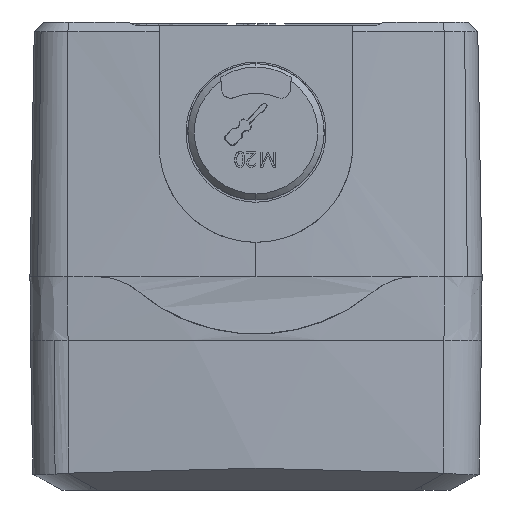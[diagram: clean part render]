
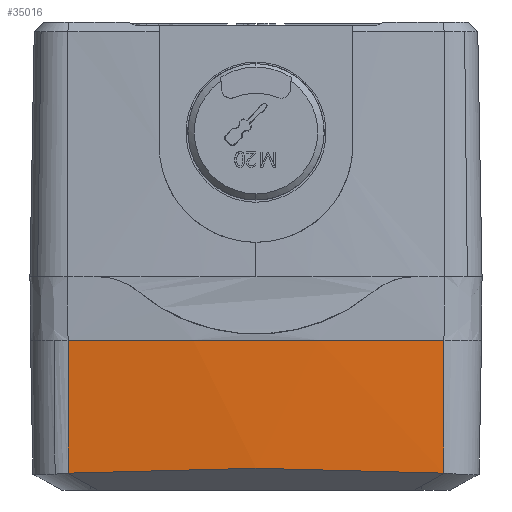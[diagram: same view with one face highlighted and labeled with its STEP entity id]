
A CAD part, left-side view. The second image highlights one B-rep face of the part: STEP entity #35016.
In plain terms, the highlighted conical face has half-angle 1 degrees and reference radius 316.019 mm.
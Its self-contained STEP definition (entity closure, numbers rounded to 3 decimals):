
#2704 = LINE ( 'NONE', #29182, #11752 ) ;
#3037 = AXIS2_PLACEMENT_3D ( 'NONE', #15292, #34302, #11772 ) ;
#4186 = LINE ( 'NONE', #23657, #42592 ) ;
#6215 = VERTEX_POINT ( 'NONE', #12149 ) ;
#7505 = EDGE_CURVE ( 'NONE', #15810, #31791, #2704, .T. ) ;
#8085 = CONICAL_SURFACE ( 'NONE', #13686, 316.019, 0.017 ) ;
#10189 = EDGE_LOOP ( 'NONE', ( #26028, #31628, #38767, #47302 ) ) ;
#10687 =( BOUNDED_CURVE ( )  B_SPLINE_CURVE ( 3, ( #48777, #45277, #41552, #11299 ),
 .UNSPECIFIED., .F., .T. ) 
 B_SPLINE_CURVE_WITH_KNOTS ( ( 4, 4 ),
 ( 6.189, 6.378 ),
 .UNSPECIFIED. ) 
 CURVE ( )  GEOMETRIC_REPRESENTATION_ITEM ( )  RATIONAL_B_SPLINE_CURVE ( ( 1., 0.997, 0.997, 1. ) ) 
 REPRESENTATION_ITEM ( '' )  );
#11299 = CARTESIAN_POINT ( 'NONE',  ( -141.262, 741.015, -18.854 ) ) ;
#11752 = VECTOR ( 'NONE', #33421, 1000. ) ;
#11772 = DIRECTION ( 'NONE',  ( 1., 0., 0. ) ) ;
#12149 = CARTESIAN_POINT ( 'NONE',  ( -141.262, 741.015, -18.854 ) ) ;
#13686 = AXIS2_PLACEMENT_3D ( 'NONE', #44436, #43694, #45668 ) ;
#14889 = EDGE_CURVE ( 'NONE', #46999, #15810, #46099, .T. ) ;
#15292 = CARTESIAN_POINT ( 'NONE',  ( 173.013, 770.5, 2. ) ) ;
#15598 = CARTESIAN_POINT ( 'NONE',  ( -141.262, 799.985, -18.854 ) ) ;
#15810 = VERTEX_POINT ( 'NONE', #18605 ) ;
#17116 = EDGE_CURVE ( 'NONE', #31791, #6215, #10687, .T. ) ;
#18605 = CARTESIAN_POINT ( 'NONE',  ( -141.625, 800.02, 2. ) ) ;
#19417 = DIRECTION ( 'NONE',  ( -0.017, -0.002, 1. ) ) ;
#22293 = CARTESIAN_POINT ( 'NONE',  ( -141.625, 740.98, 2. ) ) ;
#23657 = CARTESIAN_POINT ( 'NONE',  ( -141.625, 740.981, 2. ) ) ;
#26028 = ORIENTED_EDGE ( 'NONE', *, *, #14889, .T. ) ;
#28466 = FACE_OUTER_BOUND ( 'NONE', #10189, .T. ) ;
#29182 = CARTESIAN_POINT ( 'NONE',  ( -141.625, 800.019, 2. ) ) ;
#31628 = ORIENTED_EDGE ( 'NONE', *, *, #7505, .T. ) ;
#31791 = VERTEX_POINT ( 'NONE', #15598 ) ;
#33421 = DIRECTION ( 'NONE',  ( 0.017, -0.002, -1. ) ) ;
#34302 = DIRECTION ( 'NONE',  ( 0., 0., -1. ) ) ;
#35016 = ADVANCED_FACE ( 'NONE', ( #28466 ), #8085, .T. ) ;
#38767 = ORIENTED_EDGE ( 'NONE', *, *, #17116, .T. ) ;
#41552 = CARTESIAN_POINT ( 'NONE',  ( -143.122, 760.642, -17.831 ) ) ;
#42592 = VECTOR ( 'NONE', #19417, 1000. ) ;
#43694 = DIRECTION ( 'NONE',  ( 0., 0., 1. ) ) ;
#44300 = EDGE_CURVE ( 'NONE', #6215, #46999, #4186, .T. ) ;
#44436 = CARTESIAN_POINT ( 'NONE',  ( 173.013, 770.5, 2. ) ) ;
#45277 = CARTESIAN_POINT ( 'NONE',  ( -143.122, 780.358, -17.831 ) ) ;
#45668 = DIRECTION ( 'NONE',  ( 1., 0., 0. ) ) ;
#46099 = CIRCLE ( 'NONE', #3037, 316.019 ) ;
#46999 = VERTEX_POINT ( 'NONE', #22293 ) ;
#47302 = ORIENTED_EDGE ( 'NONE', *, *, #44300, .T. ) ;
#48777 = CARTESIAN_POINT ( 'NONE',  ( -141.262, 799.985, -18.854 ) ) ;
